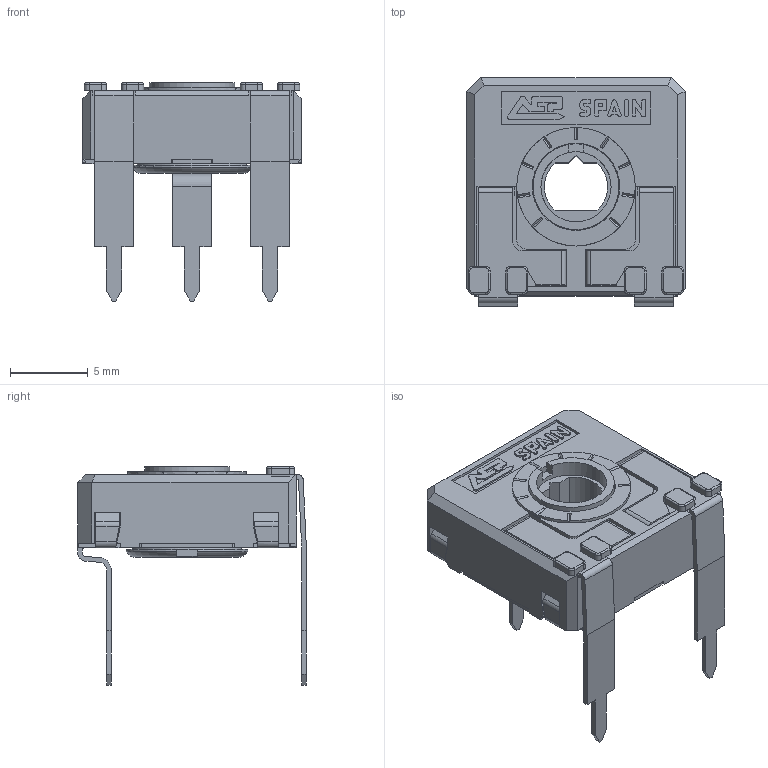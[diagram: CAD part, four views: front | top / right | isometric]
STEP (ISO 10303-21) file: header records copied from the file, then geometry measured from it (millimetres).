
FILE_DESCRIPTION(/* description */ (''),/* implementation_level */ '2;1');
FILE_NAME(/* name */ 'COMCA14KVL12,5.stp',/* time_stamp */ '2026-04-01T17:01:21+02:00',/* author */ ('CEM'),/* organization */ (''),/* preprocessor_version */ 'ST-DEVELOPER v20.1',/* originating_system */ 'Autodesk Inventor 2026',/* authorisation */ '');
FILE_SCHEMA (('AUTOMOTIVE_DESIGN { 1 0 10303 214 3 1 1 }'));
Length unit declared in the file: millimetre
Products named in the file (1): CARCASA CA14 PGA
Bounding box: 14 x 14.65 x 14 mm (x, y, z)
Volume: 543.5 mm3; surface area: 1549.7 mm2
Topology: 1 solids, 1 shells, 685 faces, 1934 edges, 1245 vertices
Faces by surface type: plane 505, cylinder 143, torus 23, bspline 8, cone 6
Full cylindrical faces by diameter (mm): 4.5 x1, 5.5 x1, 5.6 x1, 5.752 x1, 6.8 x1, 7.6 x1
Entity records: 22376 total; most frequent: CARTESIAN_POINT 4162, ORIENTED_EDGE 3868, DIRECTION 3610, EDGE_CURVE 1934, LINE 1524, VECTOR 1524, VERTEX_POINT 1245, AXIS2_PLACEMENT_3D 1043
